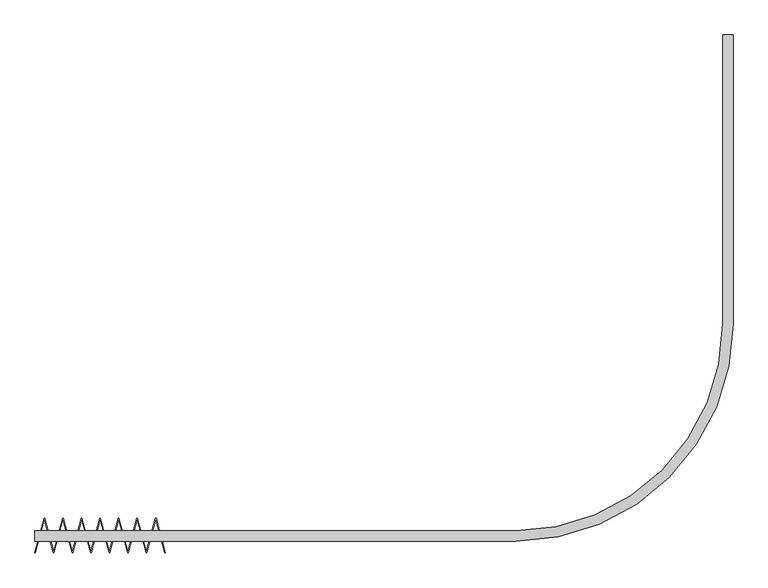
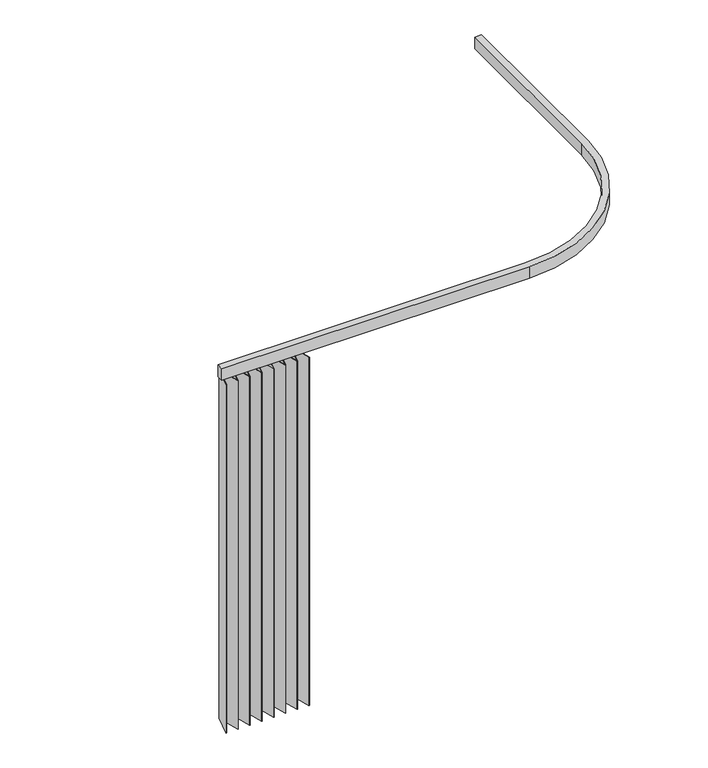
"""IFC4 building model written with IfcOpenShell, lengths in millimetres: furniture geometry, BIMHealth-Curtain_Resus-LOD2A-v1 : BIMHealth-Curtain_Resus-LOD2A-v1."""

from ifc_helpers import new_model, si_unit, point, frame, frame_2d, origin, place, context, project, spatial, polyline, circle_curve, trimmed, segment, composite_curve, outline, extrude, source, transform, mapped, element, save


def furniture_3dd21fbf(model_context):
    return source(origin(), model_context, "Body", "SweptSolid", [
        extrude(outline(composite_curve([segment(trimmed(circle_curve(frame_2d((1860.0, 840.0)), 800.0), [point((1860.0, 40.0))], [point((2660.0, 840.0))], True, "CARTESIAN"), True, "CONTINUOUS"), segment(polyline([(2660.0, 840.0), (2660.0, 1957.2426086), (2700.0, 1957.2426086), (2700.0, 840.0)]), True, "CONTINUOUS"), segment(trimmed(circle_curve(frame_2d((1860.0, 840.0)), 840.0), [point((2700.0, 840.0))], [point((1860.0, 0.0))], False, "CARTESIAN"), True, "CONTINUOUS"), segment(polyline([(1860.0, 0.0), (0.0, 0.0), (0.0, 40.0), (1860.0, 40.0)]), True, "CONTINUOUS")], self_intersect=False)), frame((0.0, 0.0, 2325.0), z_axis=(0.0, 0.0, 1.0), x_axis=(1.0, 0.0, 0.0)), (0.0, 0.0, 1.0), 75.0),
        extrude(outline(polyline([(35.8630189, 88.8426086), (37.9335712, 88.8426086), (72.761314, -41.1362967), (107.5890567, 88.8426086), (109.659609, 88.8426086), (144.4873517, -41.1362967), (179.3150944, 88.8426086), (181.3856468, 88.8426086), (216.2133895, -41.1362967), (251.0411322, 88.8426086), (253.1116846, 88.8426086), (287.9394273, -41.1362967), (322.76717, 88.8426086), (324.8377223, 88.8426086), (359.665465, -41.1362967), (394.4932078, 88.8426086), (396.5637601, 88.8426086), (431.3915028, -41.1362967), (466.2192455, 88.8426086), (468.2897979, 88.8426086), (504.1528168, -45.0), (502.2209651, -45.5176381), (467.2545217, 84.9789053), (432.426779, -45.0), (430.3562266, -45.0), (395.5284839, 84.9789053), (360.7007412, -45.0), (358.6301889, -45.0), (323.8024462, 84.9789053), (288.9747035, -45.0), (286.9041511, -45.0), (252.0764084, 84.9789053), (217.2486657, -45.0), (215.1781133, -45.0), (180.3503706, 84.9789053), (145.5226279, -45.0), (143.4520755, -45.0), (108.6243328, 84.9789053), (73.7965901, -45.0), (71.7260378, -45.0), (36.8982951, 84.9789053), (1.9318517, -45.5176381), (0.0, -45.0), (35.8630189, 88.8426086)])), frame((0.0, 0.0, 100.0), z_axis=(0.0, 0.0, 1.0), x_axis=(1.0, 0.0, 0.0)), (0.0, 0.0, 1.0), 2225.0),
    ])


if __name__ == "__main__":
    model = new_model("IFC4")
    model_context = context("Model", 3, world=origin())
    ifc_project = project(units=[si_unit("LENGTHUNIT", "METRE", prefix="MILLI")], contexts=[model_context])
    site = spatial("IfcSite", under=ifc_project)
    building = spatial("IfcBuilding", under=site)
    placement = place(None, origin())
    furniture_shape = furniture_3dd21fbf(model_context)
    element("IfcFurniture", 1, ObjectType="BIMHealth-Curtain_Resus-LOD2A-v1 : BIMHealth-Curtain_Resus-LOD2A-v1", at=placement, inside=building, context=model_context, shape_type="MappedRepresentation", body=[
        mapped(furniture_shape, transform((0.0, 0.0, 0.0), x_axis=(1.0, 0.0, 0.0), y_axis=(0.0, 1.0, 0.0), z_axis=(0.0, 0.0, 1.0))),
    ])
    save(model, "model.ifc")
